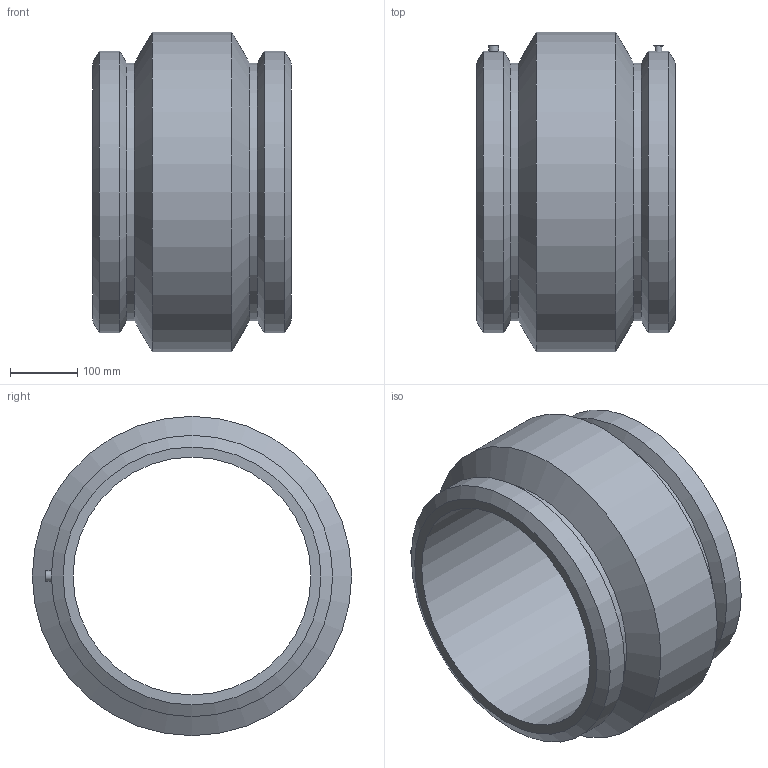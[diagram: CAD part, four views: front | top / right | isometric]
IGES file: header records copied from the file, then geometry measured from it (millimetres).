
Global section: file name: 5901D003140.ipt; native system: Autodesk Inventor 2019; preprocessor: unknown; author: KIM; date: 20210830.100915; units: inch
Bounding box: 295.91 x 474.98 x 474.98 mm (x, y, z)
Volume: 15711026.6 mm3; surface area: 894517.2 mm2
Topology: 2 solids, 2 shells, 28 faces, 56 edges, 36 vertices
Faces by surface type: cylinder 9, plane 8, cone 6, revolution 3, bspline 2
Full cylindrical faces by diameter (mm): 4 x2, 15 x2, 383.56 x2, 418.429 x2, 474.98 x1
